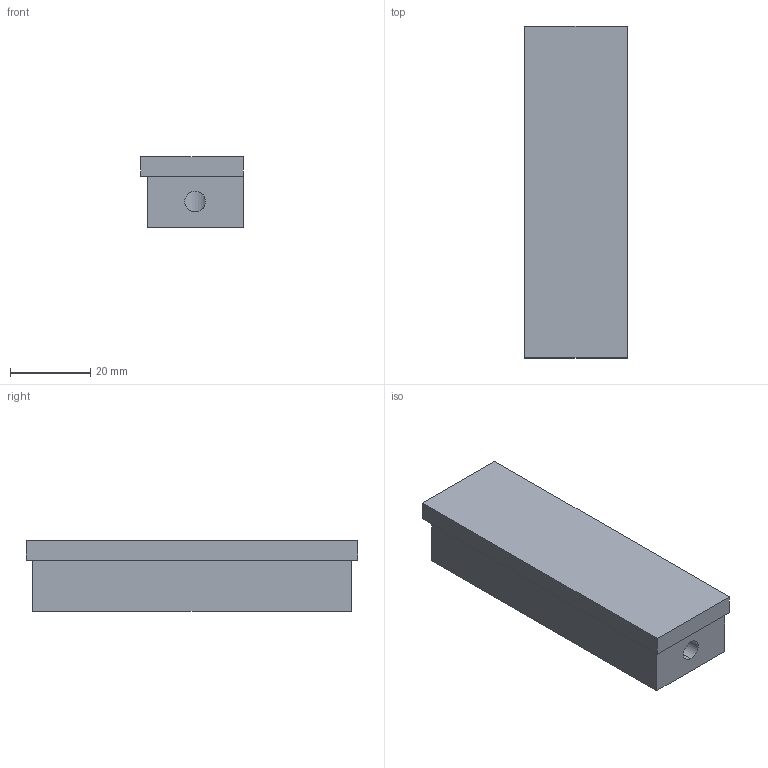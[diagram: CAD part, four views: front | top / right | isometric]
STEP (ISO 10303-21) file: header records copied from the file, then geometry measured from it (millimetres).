
FILE_DESCRIPTION (( 'STEP AP203' ), '1' );
FILE_NAME ('vert support support side.STEP', '2017-10-24T20:05:10', ( '' ), ( '' ), 'SwSTEP 2.0', 'SolidWorks 2016', '' );
FILE_SCHEMA (( 'CONFIG_CONTROL_DESIGN' ));
Length unit declared in the file: inch
Products named in the file (1): vert support support side
Bounding box: 25.4 x 82.55 x 17.46 mm (x, y, z)
Volume: 31530.5 mm3; surface area: 9087.9 mm2
Topology: 1 solids, 1 shells, 23 faces, 54 edges, 36 vertices
Faces by surface type: plane 13, cylinder 10
Entity records: 869 total; most frequent: CARTESIAN_POINT 240, DIRECTION 114, ORIENTED_EDGE 108, EDGE_CURVE 54, AXIS2_PLACEMENT_3D 40, VERTEX_POINT 36, VECTOR 34, LINE 34
